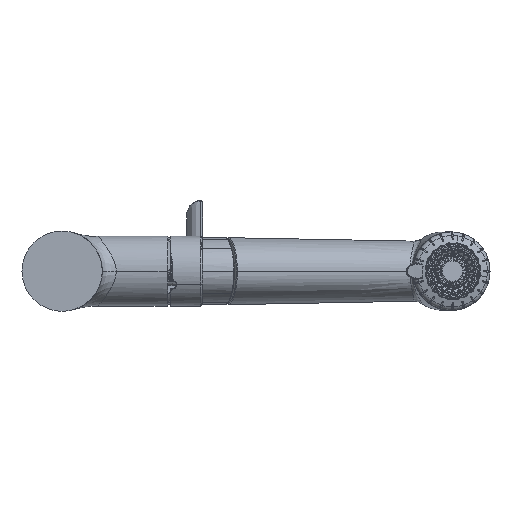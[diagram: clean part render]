
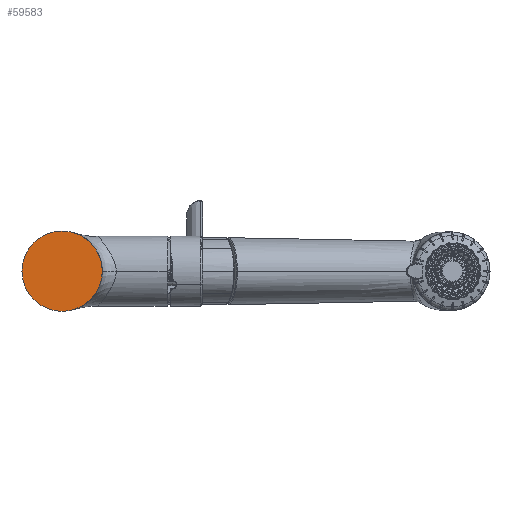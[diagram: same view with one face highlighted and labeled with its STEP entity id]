
A CAD part, front view. The second image highlights one B-rep face of the part: STEP entity #59583.
In plain terms, the highlighted planar face has unit normal (0, -1, 0).
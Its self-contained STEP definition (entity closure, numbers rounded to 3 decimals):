
#20842=CARTESIAN_POINT('',(0.,0.,0.));
#20843=DIRECTION('',(0.,-1.,0.));
#20844=DIRECTION('',(1.,0.,0.));
#20845=AXIS2_PLACEMENT_3D('',#20842,#20843,#20844);
#20847=CARTESIAN_POINT('',(0.,0.,0.));
#20848=DIRECTION('',(0.,-1.,0.));
#20849=DIRECTION('',(-1.,0.,0.));
#20850=AXIS2_PLACEMENT_3D('',#20847,#20848,#20849);
#36183=CARTESIAN_POINT('',(23.,0.,0.));
#36184=CARTESIAN_POINT('',(-23.,0.,0.));
#36185=VERTEX_POINT('',#36183);
#36186=VERTEX_POINT('',#36184);
#59574=CARTESIAN_POINT('',(0.,0.,0.));
#59575=DIRECTION('',(0.,-1.,0.));
#59576=DIRECTION('',(-1.,0.,0.));
#59577=AXIS2_PLACEMENT_3D('',#59574,#59575,#59576);
#59578=PLANE('',#59577);
#59579=ORIENTED_EDGE('',*,*,#59563,.F.);
#59580=ORIENTED_EDGE('',*,*,#59545,.F.);
#59581=EDGE_LOOP('',(#59579,#59580));
#59582=FACE_OUTER_BOUND('',#59581,.F.);
#59583=ADVANCED_FACE('',(#59582),#59578,.T.);
#20846=CIRCLE('',#20845,23.);
#20851=CIRCLE('',#20850,23.);
#59545=EDGE_CURVE('',#36186,#36185,#20851,.T.);
#59563=EDGE_CURVE('',#36185,#36186,#20846,.T.);
